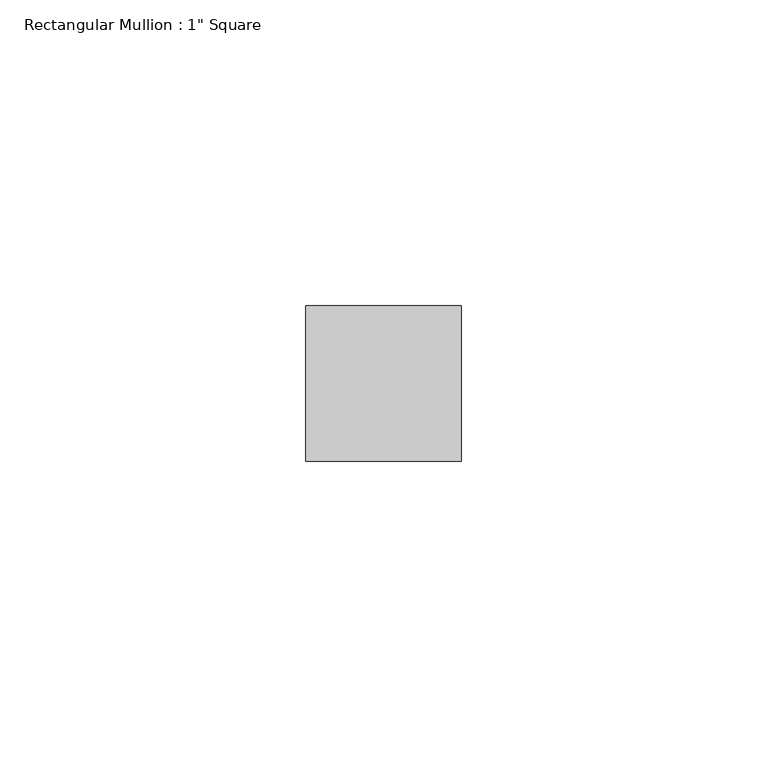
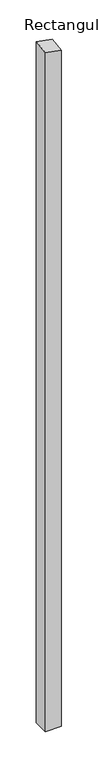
"""IFC4 building model written with IfcOpenShell, lengths in millimetres: member geometry."""

from ifc_helpers import new_model, si_unit, origin, place, context, project, spatial, faceted_brep, source, transform, mapped, element, save


def member_a05d292e(model_context):
    return source(origin(), model_context, "Body", "Brep", [
        faceted_brep([(12.7, 12.7, -1143.2770019), (12.7, -12.7, -1143.2770019), (-12.7, -12.7, -1143.2770019), (-12.7, 12.7, -1143.2770019), (-12.7, 12.7, 4.2392104), (12.7, 12.7, -1.0021923), (-12.7, -12.7, 1.0021923), (12.7, -12.7, -4.2392104)], [[[0, 1, 2, 3]], [[4, 5, 0, 3]], [[6, 4, 3, 2]], [[7, 6, 2, 1]], [[5, 7, 1, 0]], [[5, 4, 6, 7]]]),
    ])


if __name__ == "__main__":
    model = new_model("IFC4")
    model_context = context("Model", 3, world=origin())
    ifc_project = project(units=[si_unit("LENGTHUNIT", "METRE", prefix="MILLI")], contexts=[model_context])
    site = spatial("IfcSite", under=ifc_project)
    building = spatial("IfcBuilding", under=site)
    placement = place(None, origin())
    member_shape = member_a05d292e(model_context)
    element("IfcMember", 1, ObjectType="Rectangular Mullion : 1\" Square", at=placement, inside=building, context=model_context, shape_type="MappedRepresentation", body=[
        mapped(member_shape, transform((0.0, 0.0, 0.0), x_axis=(1.0, 0.0, 0.0), y_axis=(0.0, 1.0, 0.0), z_axis=(0.0, 0.0, 1.0))),
    ])
    save(model, "model.ifc")
